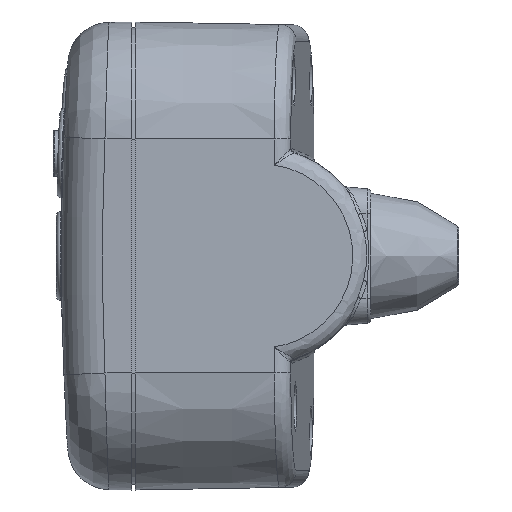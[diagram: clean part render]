
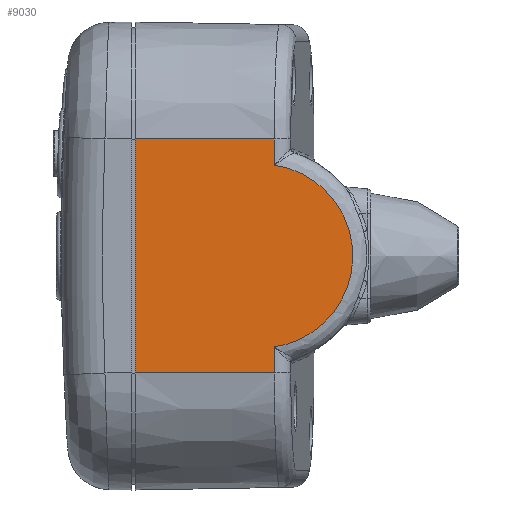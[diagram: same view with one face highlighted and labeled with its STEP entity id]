
A CAD part, left-side view. The second image highlights one B-rep face of the part: STEP entity #9030.
In plain terms, the highlighted planar face has unit normal (-1, -0.018, 0).
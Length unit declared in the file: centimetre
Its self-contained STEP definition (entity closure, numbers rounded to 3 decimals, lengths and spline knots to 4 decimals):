
#3938=CARTESIAN_POINT('',(-2.7709,-1.6655,1.088));
#3939=VERTEX_POINT('',#3938);
#3971=CARTESIAN_POINT('',(-2.7708,-1.6655,-1.088));
#3972=VERTEX_POINT('',#3971);
#3973=CARTESIAN_POINT('',(-2.7738,-1.5035,0.0));
#3974=DIRECTION('',(1.,0.017,0.0));
#3975=DIRECTION('',(0.017,-1.,0.0));
#3976=AXIS2_PLACEMENT_3D('',#3973,#3974,#3975);
#3977=ELLIPSE('',#3976,1.1002,1.1);
#3978=EDGE_CURVE('',#3939,#3972,#3977,.T.);
#7921=CARTESIAN_POINT('',(-2.7709,-1.6655,1.4));
#7922=VERTEX_POINT('',#7921);
#7930=CARTESIAN_POINT('',(-2.7709,-1.6655,1.4));
#7931=DIRECTION('',(0.0,0.0,-1.0));
#7932=VECTOR('',#7931,0.312);
#7933=LINE('',#7930,#7932);
#7934=EDGE_CURVE('',#7922,#3939,#7933,.T.);
#8226=CARTESIAN_POINT('',(-2.7709,-1.6655,-1.4));
#8227=VERTEX_POINT('',#8226);
#8262=CARTESIAN_POINT('',(-2.7709,-1.6655,-1.088));
#8263=DIRECTION('',(0.0,0.0,-1.0));
#8264=VECTOR('',#8263,0.312);
#8265=LINE('',#8262,#8264);
#8266=EDGE_CURVE('',#3972,#8227,#8265,.T.);
#8834=CARTESIAN_POINT('',(-2.8,0.0,-1.4));
#8835=VERTEX_POINT('',#8834);
#8843=CARTESIAN_POINT('',(-2.8,0.0,1.4));
#8844=VERTEX_POINT('',#8843);
#8845=CARTESIAN_POINT('',(-2.8,0.0,-1.4));
#8846=DIRECTION('',(0.0,0.0,1.0));
#8847=VECTOR('',#8846,2.8);
#8848=LINE('',#8845,#8847);
#8849=EDGE_CURVE('',#8835,#8844,#8848,.T.);
#9003=CARTESIAN_POINT('',(-2.8,0.0,1.4));
#9004=DIRECTION('',(0.017,-1.,0.0));
#9005=VECTOR('',#9004,1.6657);
#9006=LINE('',#9003,#9005);
#9007=EDGE_CURVE('',#8844,#7922,#9006,.T.);
#9012=CARTESIAN_POINT('',(-2.8,0.0,-0.7));
#9013=DIRECTION('',(-1.,-0.017,0.0));
#9014=DIRECTION('',(0.0,0.0,1.0));
#9015=AXIS2_PLACEMENT_3D('',#9012,#9013,#9014);
#9016=PLANE('',#9015);
#9017=ORIENTED_EDGE('',*,*,#7934,.F.);
#9018=ORIENTED_EDGE('',*,*,#9007,.F.);
#9019=ORIENTED_EDGE('',*,*,#8849,.F.);
#9020=CARTESIAN_POINT('',(-2.8,0.0,-1.4));
#9021=DIRECTION('',(0.017,-1.,0.0));
#9022=VECTOR('',#9021,1.6657);
#9023=LINE('',#9020,#9022);
#9024=EDGE_CURVE('',#8835,#8227,#9023,.T.);
#9025=ORIENTED_EDGE('',*,*,#9024,.T.);
#9026=ORIENTED_EDGE('',*,*,#8266,.F.);
#9027=ORIENTED_EDGE('',*,*,#3978,.F.);
#9028=EDGE_LOOP('',(#9017,#9018,#9019,#9025,#9026,#9027));
#9029=FACE_OUTER_BOUND('',#9028,.T.);
#9030=ADVANCED_FACE('',(#9029),#9016,.T.);
